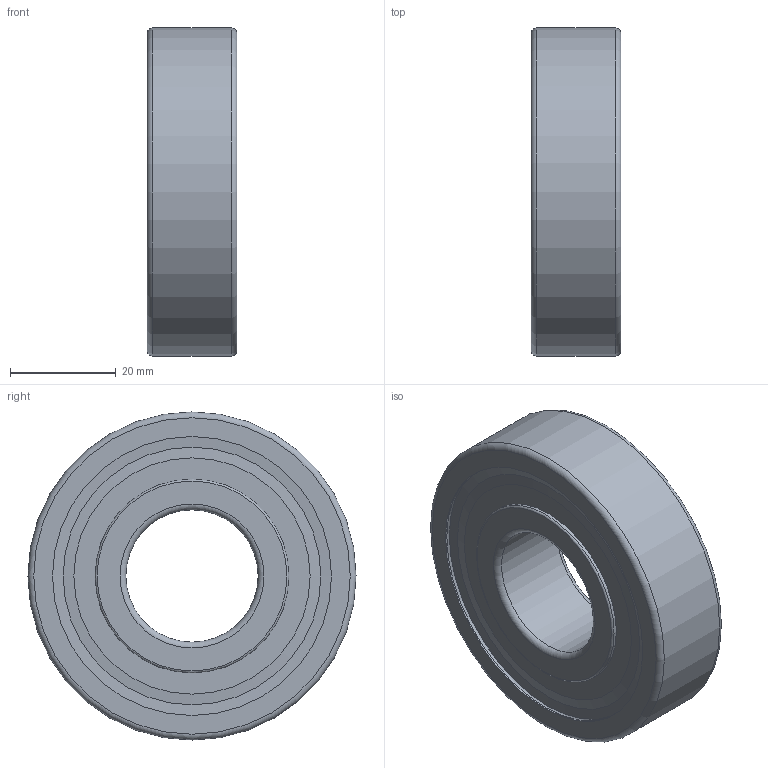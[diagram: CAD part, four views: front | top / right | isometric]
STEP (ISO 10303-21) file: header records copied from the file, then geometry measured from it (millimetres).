
FILE_DESCRIPTION( ( 'STEP AP203' ), ' ' );
FILE_NAME( 'p:/temp/worker_2978/856_4824/app_40_02018020413242975946492192d056f_000000_00_00_000000/format_0/6305-Z.stp', '2018-02-04T12:24:30', ( '' ), ( '' ), ' ', 'PARTsolutions', ' ' );
FILE_SCHEMA( ( 'CONFIG_CONTROL_DESIGN' ) );
Length unit declared in the file: millimetre
Products named in the file (4): 6305-Z; _6305-Z_PART1; _6305-Z_PART2; _6305-Z_PART3
Assembly tree (9 placements, depth 2):
  6305-Z
    _6305-Z_PART1
    _6305-Z_PART2
    _6305-Z_PART3  x7
Bounding box: 17 x 62 x 62 mm (x, y, z)
Volume: 28010.8 mm3; surface area: 17986.3 mm2
Topology: 9 solids, 9 shells, 39 faces, 79 edges, 46 vertices
Faces by surface type: cylinder 10, torus 10, sphere 7, cone 6, plane 6
Full cylindrical faces by diameter (mm): 25 x1, 36.6 x3, 50.4 x2, 52.7 x3, 62 x1
Entity records: 867 total; most frequent: DIRECTION 150, CARTESIAN_POINT 112, AXIS2_PLACEMENT_3D 75, EDGE_LOOP 64, ORIENTED_EDGE 64, FACE_OUTER_BOUND 52, VERTEX_POINT 37, ADVANCED_FACE 33
